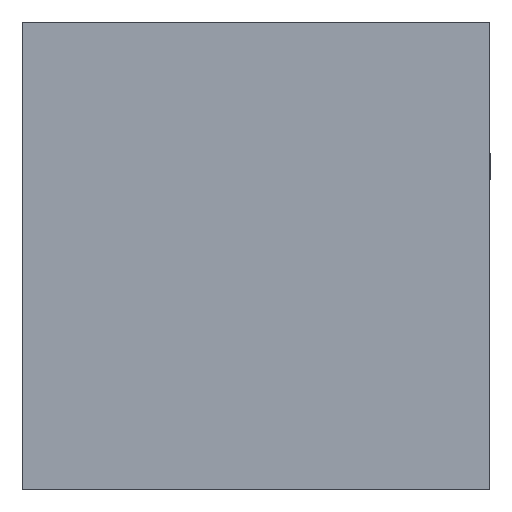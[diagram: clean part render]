
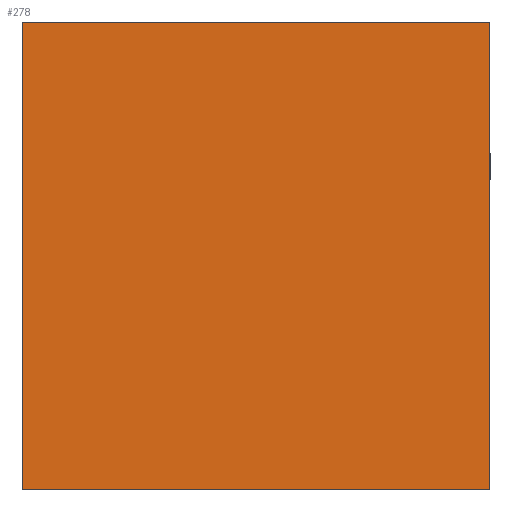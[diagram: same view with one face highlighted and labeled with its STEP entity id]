
A CAD part, left-side view. The second image highlights one B-rep face of the part: STEP entity #278.
In plain terms, the highlighted planar face has unit normal (-1, 0, 0).
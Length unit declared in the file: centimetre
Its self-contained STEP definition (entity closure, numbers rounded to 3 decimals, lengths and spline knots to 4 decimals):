
#136=VERTEX_POINT('',#1002);
#137=VERTEX_POINT('',#1004);
#139=VERTEX_POINT('',#1010);
#140=VERTEX_POINT('',#1012);
#156=EDGE_CURVE('',#137,#136,#489,.T.);
#159=EDGE_CURVE('',#136,#139,#492,.T.);
#160=EDGE_CURVE('',#140,#139,#493,.T.);
#161=EDGE_CURVE('',#140,#137,#494,.T.);
#189=ORIENTED_EDGE('',*,*,#159,.T.);
#190=ORIENTED_EDGE('',*,*,#160,.F.);
#191=ORIENTED_EDGE('',*,*,#161,.T.);
#192=ORIENTED_EDGE('',*,*,#156,.T.);
#242=EDGE_LOOP('',(#189,#190,#191,#192));
#262=FACE_BOUND('',#242,.T.);
#278=ADVANCED_FACE('',(#262),#736,.T.);
#489=LINE('',#1003,#715);
#492=LINE('',#1009,#718);
#493=LINE('',#1011,#719);
#494=LINE('',#1013,#720);
#668=AXIS2_PLACEMENT_3D('',#1008,#845,$);
#715=VECTOR('',#842,1.);
#718=VECTOR('',#846,1.);
#719=VECTOR('',#847,1.);
#720=VECTOR('',#848,1.);
#736=PLANE('',#668);
#842=DIRECTION('',(0.,0.,1.));
#845=DIRECTION('',(-1.,0.,0.));
#846=DIRECTION('',(0.,1.,0.));
#847=DIRECTION('',(0.,0.,1.));
#848=DIRECTION('',(0.,-1.,0.));
#1002=CARTESIAN_POINT('',(-5.525,0.,1.27));
#1003=CARTESIAN_POINT('',(-5.525,0.,0.));
#1004=CARTESIAN_POINT('',(-5.525,0.,0.));
#1008=CARTESIAN_POINT('',(-5.525,0.635,0.));
#1009=CARTESIAN_POINT('',(-5.525,1.27,1.27));
#1010=CARTESIAN_POINT('',(-5.525,1.27,1.27));
#1011=CARTESIAN_POINT('',(-5.525,1.27,0.));
#1012=CARTESIAN_POINT('',(-5.525,1.27,0.));
#1013=CARTESIAN_POINT('',(-5.525,1.27,0.));
